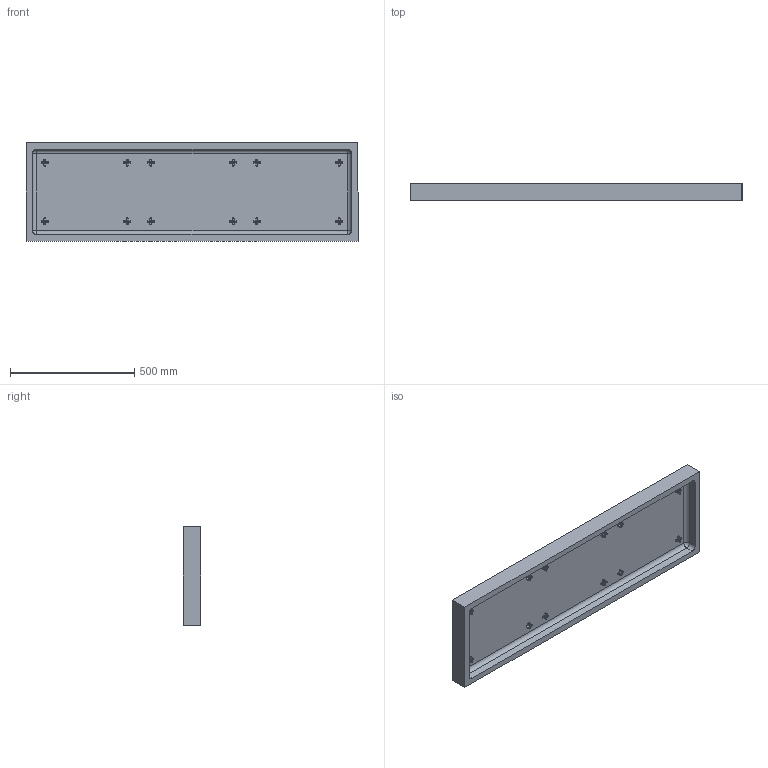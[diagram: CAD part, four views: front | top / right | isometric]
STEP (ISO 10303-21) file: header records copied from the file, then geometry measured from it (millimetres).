
FILE_DESCRIPTION (( 'STEP AP214' ), '1' );
FILE_NAME ('1750E - 932 TOP PID 4-10-2025.STEP', '2025-05-22T05:50:18', ( '' ), ( '' ), 'SwSTEP 2.0', 'SolidWorks 2021', '' );
FILE_SCHEMA (( 'AUTOMOTIVE_DESIGN' ));
Length unit declared in the file: inch
Products named in the file (1): 1750E - 932 TOP PID 4-10-2025
Bounding box: 1335.52 x 70.87 x 395.72 mm (x, y, z)
Volume: 17695383 mm3; surface area: 1429200.4 mm2
Topology: 1 solids, 1 shells, 1286 faces, 2872 edges, 1512 vertices
Faces by surface type: bspline 481, torus 240, cylinder 200, cone 132, plane 131, sphere 102
Entity records: 51171 total; most frequent: CARTESIAN_POINT 26496, ORIENTED_EDGE 5542, DIRECTION 4730, EDGE_CURVE 2771, AXIS2_PLACEMENT_3D 2139, VERTEX_POINT 1512, CIRCLE 1333, EDGE_LOOP 1311
